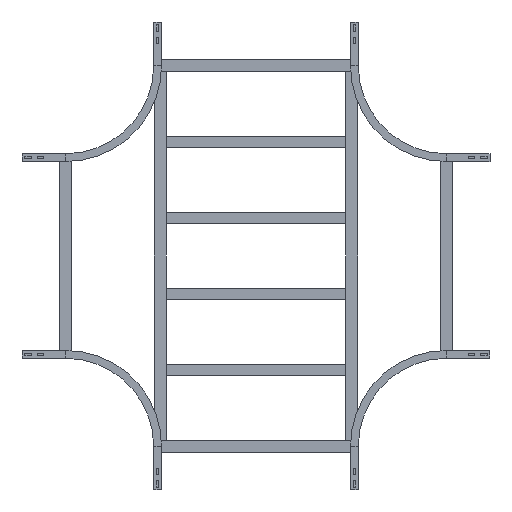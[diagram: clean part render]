
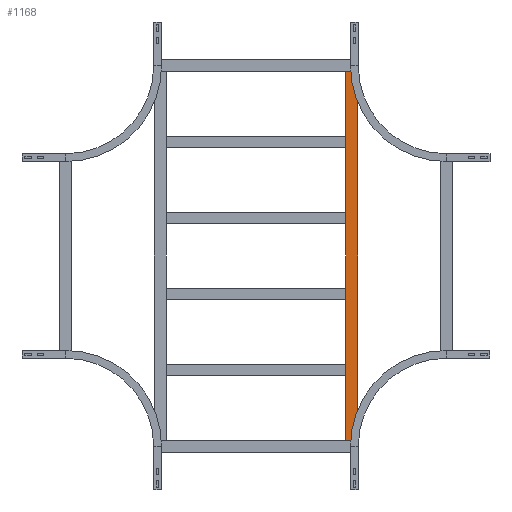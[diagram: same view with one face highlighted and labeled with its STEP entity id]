
A CAD part, front view. The second image highlights one B-rep face of the part: STEP entity #1168.
In plain terms, the highlighted planar face has unit normal (0, -1, 0).
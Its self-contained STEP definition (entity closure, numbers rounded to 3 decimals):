
#73 = LINE ( 'NONE', #1801, #2397 ) ;
#78 = CARTESIAN_POINT ( 'NONE',  ( -629.75, 0., 20.25 ) ) ;
#85 = DIRECTION ( 'NONE',  ( 0., 0., -1. ) ) ;
#133 = VERTEX_POINT ( 'NONE', #1989 ) ;
#166 = CARTESIAN_POINT ( 'NONE',  ( -629.75, 0., 20.25 ) ) ;
#257 = LINE ( 'NONE', #78, #819 ) ;
#309 = ORIENTED_EDGE ( 'NONE', *, *, #1745, .T. ) ;
#757 = VERTEX_POINT ( 'NONE', #1828 ) ;
#788 = EDGE_LOOP ( 'NONE', ( #309, #991, #1082, #1127 ) ) ;
#819 = VECTOR ( 'NONE', #1793, 1000. ) ;
#836 = DIRECTION ( 'NONE',  ( -1., 0., 0. ) ) ;
#875 = FACE_OUTER_BOUND ( 'NONE', #788, .T. ) ;
#923 = EDGE_CURVE ( 'NONE', #1034, #757, #1980, .T. ) ;
#991 = ORIENTED_EDGE ( 'NONE', *, *, #923, .F. ) ;
#1008 = LINE ( 'NONE', #2008, #2471 ) ;
#1034 = VERTEX_POINT ( 'NONE', #2324 ) ;
#1045 = EDGE_CURVE ( 'NONE', #133, #1320, #1008, .T. ) ;
#1077 = EDGE_CURVE ( 'NONE', #133, #1034, #73, .T. ) ;
#1082 = ORIENTED_EDGE ( 'NONE', *, *, #1077, .F. ) ;
#1127 = ORIENTED_EDGE ( 'NONE', *, *, #1045, .T. ) ;
#1168 = ADVANCED_FACE ( 'NONE', ( #875 ), #1438, .F. ) ;
#1251 = DIRECTION ( 'NONE',  ( 0., 0., 1. ) ) ;
#1320 = VERTEX_POINT ( 'NONE', #166 ) ;
#1438 = PLANE ( 'NONE',  #1933 ) ;
#1622 = DIRECTION ( 'NONE',  ( -1., 0., 0. ) ) ;
#1745 = EDGE_CURVE ( 'NONE', #1320, #757, #257, .T. ) ;
#1793 = DIRECTION ( 'NONE',  ( 0., 0., -1. ) ) ;
#1801 = CARTESIAN_POINT ( 'NONE',  ( 629.75, 0., 20.25 ) ) ;
#1828 = CARTESIAN_POINT ( 'NONE',  ( -629.75, 0., -20.25 ) ) ;
#1845 = VECTOR ( 'NONE', #836, 1000. ) ;
#1933 = AXIS2_PLACEMENT_3D ( 'NONE', #2220, #2033, #1251 ) ;
#1980 = LINE ( 'NONE', #2366, #1845 ) ;
#1989 = CARTESIAN_POINT ( 'NONE',  ( 629.75, 0., 20.25 ) ) ;
#2008 = CARTESIAN_POINT ( 'NONE',  ( 629.75, 0., 20.25 ) ) ;
#2033 = DIRECTION ( 'NONE',  ( 0., 1., 0. ) ) ;
#2220 = CARTESIAN_POINT ( 'NONE',  ( 629.75, 0., 20.25 ) ) ;
#2324 = CARTESIAN_POINT ( 'NONE',  ( 629.75, 0., -20.25 ) ) ;
#2366 = CARTESIAN_POINT ( 'NONE',  ( 629.75, 0., -20.25 ) ) ;
#2397 = VECTOR ( 'NONE', #85, 1000. ) ;
#2471 = VECTOR ( 'NONE', #1622, 1000. ) ;
